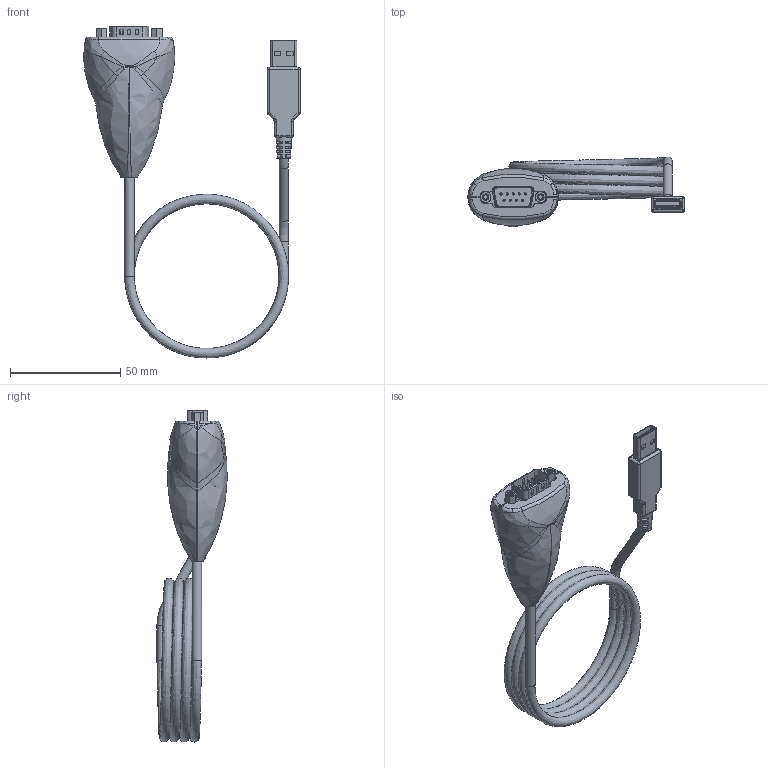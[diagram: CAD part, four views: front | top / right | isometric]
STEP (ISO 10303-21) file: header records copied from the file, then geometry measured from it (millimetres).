
FILE_DESCRIPTION(/* description */ (''),/* implementation_level */ '2;1');
FILE_NAME(/* name */ '/Users/leo/Desktop/Desktop - Leonardo’s MacBook Air/Coolgear May/USBG-232mm/USBG-232mm Model3D LPV1.step',/* time_stamp */ '2021-07-22T11:28:42-04:00',/* author */ (''),/* organization */ (''),/* preprocessor_version */ 'ST-DEVELOPER v18.1',/* originating_system */ 'Autodesk Translation Framework v10.9.0.1377',/* authorisation */ '');
FILE_SCHEMA (('AUTOMOTIVE_DESIGN { 1 0 10303 214 3 1 1 }'));
Products named in the file (1): FusionComponent
Bounding box: 98.32 x 31.88 x 150.67 mm (x, y, z)
Volume: 25729.4 mm3; surface area: 32432.7 mm2
Topology: 11 solids, 11 shells, 1102 faces, 2847 edges, 1731 vertices
Faces by surface type: plane 441, cylinder 369, bspline 149, torus 64, cone 44, sphere 35
Full cylindrical faces by diameter (mm): 0.9 x9, 1 x18, 1.5 x9, 2.015 x2, 2.02 x14, 2.845 x14, 2.998 x2, 3 x2, 3.25 x2, 3.643 x2, 4.3 x4, 4.4 x2
Entity records: 44450 total; most frequent: CARTESIAN_POINT 19618, ORIENTED_EDGE 5548, DIRECTION 4605, EDGE_CURVE 2774, VERTEX_POINT 1729, AXIS2_PLACEMENT_3D 1675, LINE 1255, VECTOR 1255
